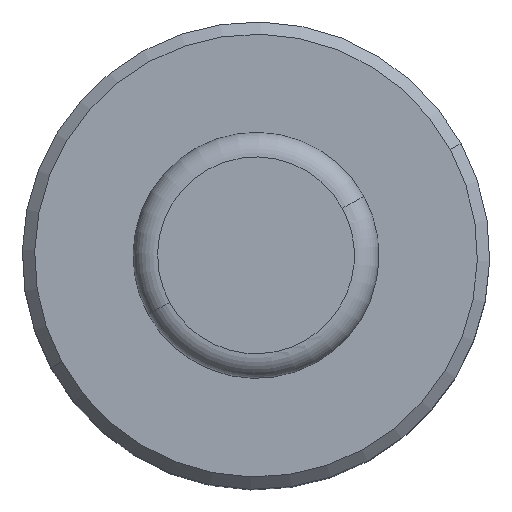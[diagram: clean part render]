
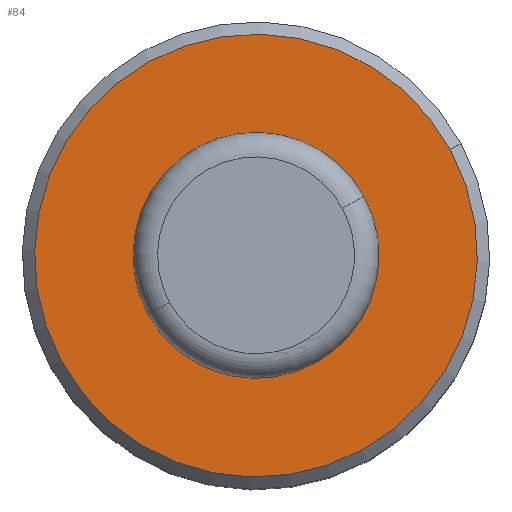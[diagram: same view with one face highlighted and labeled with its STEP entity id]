
A CAD part, top view. The second image highlights one B-rep face of the part: STEP entity #84.
In plain terms, the highlighted planar face has unit normal (0, 0, 1).
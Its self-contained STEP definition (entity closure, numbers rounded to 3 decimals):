
#61=CARTESIAN_POINT('Axis2P3D Location',(0.,0.,42.)) ;
#66=CARTESIAN_POINT('Axis2P3D Location',(0.,0.,42.)) ;
#70=CARTESIAN_POINT('Vertex',(15.796,8.63,42.)) ;
#72=CARTESIAN_POINT('Vertex',(-15.796,-8.63,42.)) ;
#75=CARTESIAN_POINT('Axis2P3D Location',(0.,0.,42.)) ;
#62=DIRECTION('Axis2P3D Direction',(0.,0.,1.)) ;
#63=DIRECTION('Axis2P3D XDirection',(1.,0.,0.)) ;
#67=DIRECTION('Axis2P3D Direction',(0.,0.,1.)) ;
#76=DIRECTION('Axis2P3D Direction',(0.,0.,1.)) ;
#64=AXIS2_PLACEMENT_3D('Plane Axis2P3D',#61,#62,#63) ;
#68=AXIS2_PLACEMENT_3D('Circle Axis2P3D',#66,#67,$) ;
#77=AXIS2_PLACEMENT_3D('Circle Axis2P3D',#75,#76,$) ;
#81=ORIENTED_EDGE('',*,*,#74,.T.) ;
#82=ORIENTED_EDGE('',*,*,#79,.T.) ;
#84=ADVANCED_FACE('',(#83),#65,.T.) ;
#69=CIRCLE('generated circle',#68,18.) ;
#78=CIRCLE('generated circle',#77,18.) ;
#74=EDGE_CURVE('',#71,#73,#69,.T.) ;
#79=EDGE_CURVE('',#73,#71,#78,.T.) ;
#80=EDGE_LOOP('',(#81,#82)) ;
#83=FACE_OUTER_BOUND('',#80,.T.) ;
#65=PLANE('Plane',#64) ;
#71=VERTEX_POINT('',#70) ;
#73=VERTEX_POINT('',#72) ;
